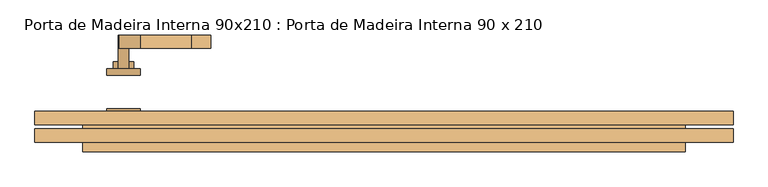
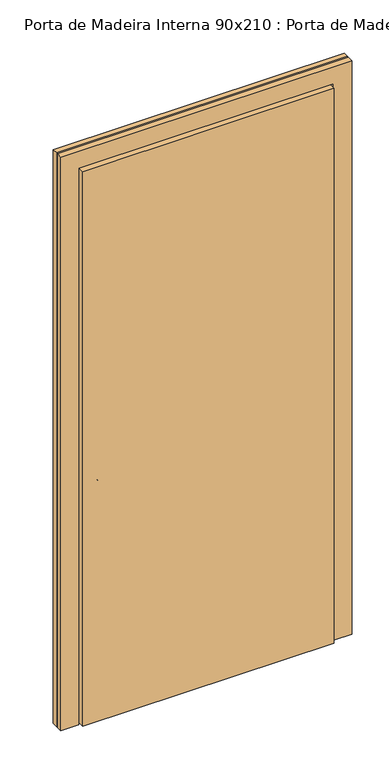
"""IFC4 building model written with IfcOpenShell, lengths in millimetres: door geometry, Porta de Madeira Interna 90x210 : Porta de Madeira Interna 90 x 210."""

from ifc_helpers import new_model, si_unit, point, frame, frame_2d, origin, origin_with_axes, place, context, project, spatial, polyline, circle_curve, trimmed, segment, composite_curve, outline, extrude, source, transform, mapped, element, save


def porta_de_madeira_interna_90x210_porta_de_madeira_interna_90_e78495d9(model_context):
    return source(origin(), model_context, "Body", "SweptSolid", [
        extrude(outline(composite_curve([segment(trimmed(circle_curve(frame_2d((854.4, -389.0)), 15.0), [point((854.4, -374.0))], [point((854.4, -404.0))], False, "CARTESIAN"), True, "CONTINUOUS"), segment(trimmed(circle_curve(frame_2d((854.4, -389.0)), 15.0), [point((854.4, -404.0))], [point((854.4, -374.0))], False, "CARTESIAN"), True, "CONTINUOUS")], self_intersect=False)), frame((0.0, 3.975, 0.0), z_axis=(0.0, 1.0, 0.0), x_axis=(0.0, 0.0, 1.0)), (0.0, 0.0, 1.0), 10.0),
        extrude(outline(composite_curve([segment(trimmed(circle_curve(frame_2d((854.4, -389.0)), 15.0), [point((854.4, -374.0))], [point((854.4, -404.0))], False, "CARTESIAN"), True, "CONTINUOUS"), segment(trimmed(circle_curve(frame_2d((854.4, -389.0)), 15.0), [point((854.4, -404.0))], [point((854.4, -374.0))], False, "CARTESIAN"), True, "CONTINUOUS")], self_intersect=False)), frame((0.0, 83.975, 0.0), z_axis=(0.0, 1.0, 0.0), x_axis=(0.0, 0.0, 1.0)), (0.0, 0.0, 1.0), 10.0),
        extrude(outline(composite_curve([segment(trimmed(circle_curve(frame_2d((914.4, -389.0)), 8.0), [point((919.0523287, -395.5081363))], [point((914.4, -381.0))], False, "CARTESIAN"), True, "CONTINUOUS"), segment(trimmed(circle_curve(frame_2d((909.2738613, -363.6138099)), 18.1261387), [point((914.4, -381.0))], [point((927.4, -363.6138099))], True, "CARTESIAN"), True, "CONTINUOUS"), segment(polyline([(927.4, -363.6138099), (927.4, -287.3564091)]), True, "CONTINUOUS"), segment(trimmed(circle_curve(frame_2d((986.6709207, -290.9396612)), 59.3791355), [point((927.4, -287.3564091))], [point((936.6135558, -259.0))], False, "CARTESIAN"), True, "CONTINUOUS"), segment(polyline([(936.6135558, -259.0), (939.4, -259.0)]), True, "CONTINUOUS"), segment(trimmed(circle_curve(frame_2d((1017.6850638, -287.4227909)), 83.2850902), [point((939.4, -259.0))], [point((934.4, -287.3564091))], True, "CARTESIAN"), True, "CONTINUOUS"), segment(polyline([(934.4, -287.3564091), (934.4, -363.6325667)]), True, "CONTINUOUS"), segment(trimmed(circle_curve(frame_2d((897.1555521, -365.3324871)), 37.2832219), [point((934.4, -363.6325667))], [point((919.0523287, -395.5081363))], False, "CARTESIAN"), True, "CONTINUOUS")], self_intersect=False)), frame((0.0, -36.025, 0.0), z_axis=(0.0, 1.0, 0.0), x_axis=(0.0, 0.0, 1.0)), (0.0, 0.0, 1.0), 20.0),
        extrude(outline(composite_curve([segment(trimmed(circle_curve(frame_2d((909.2738682, -363.6138122)), 18.1261318), [point((914.3999903, -381.0))], [point((927.4, -363.6138122))], True, "CARTESIAN"), True, "CONTINUOUS"), segment(polyline([(927.4, -363.6138122), (927.4, -287.3564091)]), True, "CONTINUOUS"), segment(trimmed(circle_curve(frame_2d((986.6709207, -290.9396612)), 59.3791355), [point((927.4, -287.3564091))], [point((936.6135558, -259.0))], False, "CARTESIAN"), True, "CONTINUOUS"), segment(polyline([(936.6135558, -259.0), (939.4, -259.0)]), True, "CONTINUOUS"), segment(trimmed(circle_curve(frame_2d((1017.6850638, -287.4227909)), 83.2850902), [point((939.4, -259.0))], [point((934.4, -287.3564091))], True, "CARTESIAN"), True, "CONTINUOUS"), segment(polyline([(934.4, -287.3564091), (934.4, -363.6325667)]), True, "CONTINUOUS"), segment(trimmed(circle_curve(frame_2d((897.1555521, -365.3324871)), 37.2832219), [point((934.4, -363.6325667))], [point((919.0523287, -395.5081363))], False, "CARTESIAN"), True, "CONTINUOUS"), segment(trimmed(circle_curve(frame_2d((914.4, -389.0)), 8.0), [point((919.0523287, -395.5081363))], [point((914.3999903, -381.0))], False, "CARTESIAN"), True, "CONTINUOUS")], self_intersect=False)), frame((0.0, 113.975, 0.0), z_axis=(0.0, 1.0, 0.0), x_axis=(0.0, 0.0, 1.0)), (0.0, 0.0, 1.0), 20.0),
        extrude(outline(composite_curve([segment(trimmed(circle_curve(frame_2d((914.4, -389.0)), 8.0), [point((914.4, -381.0))], [point((914.4, -397.0))], False, "CARTESIAN"), True, "CONTINUOUS"), segment(trimmed(circle_curve(frame_2d((914.4, -389.0)), 8.0), [point((914.4, -397.0))], [point((914.4, -381.0))], False, "CARTESIAN"), True, "CONTINUOUS")], self_intersect=False)), frame((0.0, -16.025, 0.0), z_axis=(0.0, 1.0, 0.0), x_axis=(0.0, 0.0, 1.0)), (0.0, 0.0, 1.0), 30.0),
        extrude(outline(composite_curve([segment(trimmed(circle_curve(frame_2d((914.4, -389.0)), 8.0), [point((914.4, -381.0))], [point((914.4, -397.0))], False, "CARTESIAN"), True, "CONTINUOUS"), segment(trimmed(circle_curve(frame_2d((914.4, -389.0)), 8.0), [point((914.4, -397.0))], [point((914.4, -381.0))], False, "CARTESIAN"), True, "CONTINUOUS")], self_intersect=False)), frame((0.0, 83.975, 0.0), z_axis=(0.0, 1.0, 0.0), x_axis=(0.0, 0.0, 1.0)), (0.0, 0.0, 1.0), 30.0),
        extrude(outline(composite_curve([segment(trimmed(circle_curve(frame_2d((844.4, -389.0)), 25.0), [point((844.4, -414.0))], [point((844.4, -364.0))], False, "CARTESIAN"), True, "CONTINUOUS"), segment(polyline([(844.4, -364.0), (914.4, -364.0)]), True, "CONTINUOUS"), segment(trimmed(circle_curve(frame_2d((914.4, -389.0)), 25.0), [point((914.4, -364.0))], [point((914.4, -414.0))], False, "CARTESIAN"), True, "CONTINUOUS"), segment(polyline([(914.4, -414.0), (844.4, -414.0)]), True, "CONTINUOUS")], self_intersect=False)), frame((0.0, 13.975, 0.0), z_axis=(0.0, 1.0, 0.0), x_axis=(0.0, 0.0, 1.0)), (0.0, 0.0, 1.0), 10.0),
        extrude(outline(composite_curve([segment(trimmed(circle_curve(frame_2d((844.4, -389.0)), 25.0), [point((844.4, -414.0))], [point((844.4, -364.0))], False, "CARTESIAN"), True, "CONTINUOUS"), segment(polyline([(844.4, -364.0), (914.4, -364.0)]), True, "CONTINUOUS"), segment(trimmed(circle_curve(frame_2d((914.4, -389.0)), 25.0), [point((914.4, -364.0))], [point((914.4, -414.0))], False, "CARTESIAN"), True, "CONTINUOUS"), segment(polyline([(914.4, -414.0), (844.4, -414.0)]), True, "CONTINUOUS")], self_intersect=False)), frame((0.0, 73.975, 0.0), z_axis=(0.0, 1.0, 0.0), x_axis=(0.0, 0.0, 1.0)), (0.0, 0.0, 1.0), 10.0),
        extrude(outline(polyline([(450.0, -40.175), (-450.0, -40.175), (-450.0, -0.175), (450.0, -0.175), (450.0, -40.175)])), origin_with_axes(), (0.0, 0.0, 1.0), 2100.0),
        extrude(outline(polyline([(0.0, 456.35), (0.0, 521.35), (2171.35, 521.35), (2171.35, -521.35), (0.0, -521.35), (0.0, -456.35), (2106.35, -456.35), (2106.35, 456.35), (0.0, 456.35)])), frame((0.0, -26.175, 0.0), z_axis=(0.0, 1.0, 0.0), x_axis=(0.0, 0.0, 1.0)), (0.0, 0.0, 1.0), 20.0),
        extrude(outline(polyline([(0.0, 456.35), (0.0, 521.35), (2171.35, 521.35), (2171.35, -521.35), (0.0, -521.35), (0.0, -456.35), (2106.35, -456.35), (2106.35, 456.35), (0.0, 456.35)])), frame((0.0, -0.175, 0.0), z_axis=(0.0, 1.0, 0.0), x_axis=(0.0, 0.0, 1.0)), (0.0, 0.0, 1.0), 20.0),
    ])


if __name__ == "__main__":
    model = new_model("IFC4")
    model_context = context("Model", 3, world=origin())
    ifc_project = project(units=[si_unit("LENGTHUNIT", "METRE", prefix="MILLI")], contexts=[model_context])
    site = spatial("IfcSite", under=ifc_project)
    building = spatial("IfcBuilding", under=site)
    placement = place(None, origin())
    porta_de_madeira_interna_90x210_porta_de_madeira_interna_90_shape = porta_de_madeira_interna_90x210_porta_de_madeira_interna_90_e78495d9(model_context)
    element("IfcDoor", 1, ObjectType="Porta de Madeira Interna 90x210 : Porta de Madeira Interna 90 x 210", at=placement, inside=building, context=model_context, shape_type="MappedRepresentation", body=[
        mapped(porta_de_madeira_interna_90x210_porta_de_madeira_interna_90_shape, transform((0.0, 0.0, 0.0), x_axis=(1.0, 0.0, 0.0), y_axis=(0.0, 1.0, 0.0), z_axis=(0.0, 0.0, 1.0))),
    ])
    save(model, "model.ifc")
